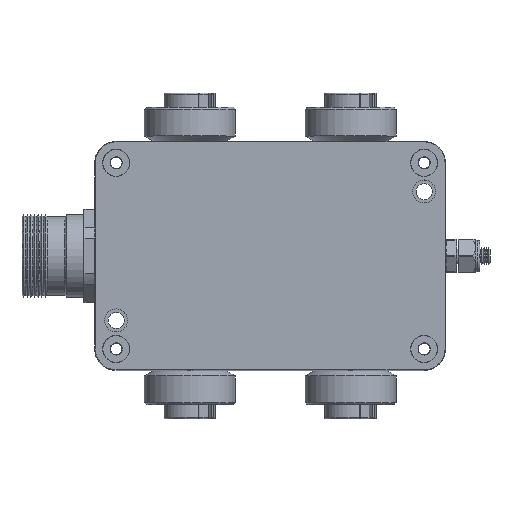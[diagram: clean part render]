
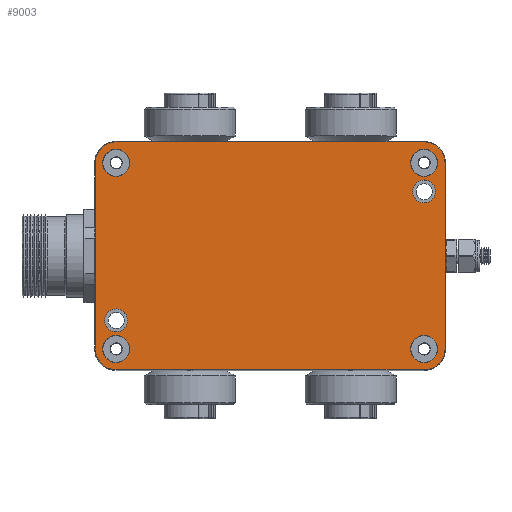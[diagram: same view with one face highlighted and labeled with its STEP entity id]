
A CAD part, top view. The second image highlights one B-rep face of the part: STEP entity #9003.
In plain terms, the highlighted planar face has unit normal (0, 0, 1).
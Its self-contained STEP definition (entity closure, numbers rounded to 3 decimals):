
#476=LINE('',#14518,#1065);
#498=LINE('',#14632,#1087);
#499=LINE('',#14635,#1088);
#500=LINE('',#14637,#1089);
#1065=VECTOR('',#11668,52.);
#1087=VECTOR('',#11794,52.);
#1088=VECTOR('',#11797,86.);
#1089=VECTOR('',#11798,86.);
#1716=FACE_BOUND('',#2771,.T.);
#1717=FACE_BOUND('',#2772,.T.);
#1718=FACE_BOUND('',#2773,.T.);
#1719=FACE_BOUND('',#2774,.T.);
#1720=FACE_BOUND('',#2775,.T.);
#1721=FACE_BOUND('',#2776,.T.);
#2091=FACE_OUTER_BOUND('',#2770,.T.);
#2770=EDGE_LOOP('',(#6882,#6883,#6884,#6885,#6886,#6887,#6888,#6889));
#2771=EDGE_LOOP('',(#6890));
#2772=EDGE_LOOP('',(#6891));
#2773=EDGE_LOOP('',(#6892));
#2774=EDGE_LOOP('',(#6893));
#2775=EDGE_LOOP('',(#6894));
#2776=EDGE_LOOP('',(#6895));
#3444=CIRCLE('',#9817,3.2);
#3445=CIRCLE('',#9819,3.2);
#3446=CIRCLE('',#9821,3.8);
#3447=CIRCLE('',#9823,3.8);
#3448=CIRCLE('',#9825,3.8);
#3449=CIRCLE('',#9827,3.8);
#3457=CIRCLE('',#9843,5.834);
#3465=CIRCLE('',#9865,5.834);
#3466=CIRCLE('',#9867,5.834);
#3467=CIRCLE('',#9868,5.834);
#4113=VERTEX_POINT('',#14515);
#4114=VERTEX_POINT('',#14517);
#4119=VERTEX_POINT('',#14529);
#4120=VERTEX_POINT('',#14532);
#4121=VERTEX_POINT('',#14535);
#4122=VERTEX_POINT('',#14538);
#4123=VERTEX_POINT('',#14541);
#4124=VERTEX_POINT('',#14544);
#4132=VERTEX_POINT('',#14568);
#4152=VERTEX_POINT('',#14626);
#4153=VERTEX_POINT('',#14630);
#4154=VERTEX_POINT('',#14631);
#4155=VERTEX_POINT('',#14633);
#4156=VERTEX_POINT('',#14636);
#5113=EDGE_CURVE('',#4113,#4114,#476,.T.);
#5119=EDGE_CURVE('',#4119,#4119,#3444,.T.);
#5120=EDGE_CURVE('',#4120,#4120,#3445,.T.);
#5121=EDGE_CURVE('',#4121,#4121,#3446,.T.);
#5122=EDGE_CURVE('',#4122,#4122,#3447,.T.);
#5123=EDGE_CURVE('',#4123,#4123,#3448,.T.);
#5124=EDGE_CURVE('',#4124,#4124,#3449,.T.);
#5132=EDGE_CURVE('',#4114,#4132,#3457,.T.);
#5161=EDGE_CURVE('',#4152,#4113,#3465,.T.);
#5163=EDGE_CURVE('',#4153,#4154,#498,.T.);
#5164=EDGE_CURVE('',#4155,#4153,#3466,.T.);
#5165=EDGE_CURVE('',#4132,#4155,#499,.T.);
#5166=EDGE_CURVE('',#4156,#4152,#500,.T.);
#5167=EDGE_CURVE('',#4154,#4156,#3467,.T.);
#6882=ORIENTED_EDGE('',*,*,#5163,.F.);
#6883=ORIENTED_EDGE('',*,*,#5164,.F.);
#6884=ORIENTED_EDGE('',*,*,#5165,.F.);
#6885=ORIENTED_EDGE('',*,*,#5132,.F.);
#6886=ORIENTED_EDGE('',*,*,#5113,.F.);
#6887=ORIENTED_EDGE('',*,*,#5161,.F.);
#6888=ORIENTED_EDGE('',*,*,#5166,.F.);
#6889=ORIENTED_EDGE('',*,*,#5167,.F.);
#6890=ORIENTED_EDGE('',*,*,#5124,.T.);
#6891=ORIENTED_EDGE('',*,*,#5123,.T.);
#6892=ORIENTED_EDGE('',*,*,#5122,.T.);
#6893=ORIENTED_EDGE('',*,*,#5121,.T.);
#6894=ORIENTED_EDGE('',*,*,#5120,.T.);
#6895=ORIENTED_EDGE('',*,*,#5119,.T.);
#8377=PLANE('',#9866);
#9003=ADVANCED_FACE('',(#2091,#1716,#1717,#1718,#1719,#1720,#1721),#8377,
 .F.);
#9817=AXIS2_PLACEMENT_3D('',#14530,#11677,#11678);
#9819=AXIS2_PLACEMENT_3D('',#14533,#11681,#11682);
#9821=AXIS2_PLACEMENT_3D('',#14536,#11685,#11686);
#9823=AXIS2_PLACEMENT_3D('',#14539,#11689,#11690);
#9825=AXIS2_PLACEMENT_3D('',#14542,#11693,#11694);
#9827=AXIS2_PLACEMENT_3D('',#14545,#11697,#11698);
#9843=AXIS2_PLACEMENT_3D('',#14569,#11729,#11730);
#9865=AXIS2_PLACEMENT_3D('',#14627,#11789,#11790);
#9866=AXIS2_PLACEMENT_3D('',#14629,#11792,#11793);
#9867=AXIS2_PLACEMENT_3D('',#14634,#11795,#11796);
#9868=AXIS2_PLACEMENT_3D('',#14638,#11799,#11800);
#11668=DIRECTION('',(0.,1.,0.));
#11677=DIRECTION('center_axis',(0.,0.,-1.));
#11678=DIRECTION('ref_axis',(-1.,0.,0.));
#11681=DIRECTION('center_axis',(0.,0.,-1.));
#11682=DIRECTION('ref_axis',(-1.,0.,0.));
#11685=DIRECTION('center_axis',(0.,0.,-1.));
#11686=DIRECTION('ref_axis',(-1.,0.,0.));
#11689=DIRECTION('center_axis',(0.,0.,-1.));
#11690=DIRECTION('ref_axis',(-1.,0.,0.));
#11693=DIRECTION('center_axis',(0.,0.,-1.));
#11694=DIRECTION('ref_axis',(-1.,0.,0.));
#11697=DIRECTION('center_axis',(0.,0.,-1.));
#11698=DIRECTION('ref_axis',(-1.,0.,0.));
#11729=DIRECTION('center_axis',(0.,0.,-1.));
#11730=DIRECTION('ref_axis',(-1.,0.,0.));
#11789=DIRECTION('center_axis',(0.,0.,-1.));
#11790=DIRECTION('ref_axis',(-1.,0.,0.));
#11792=DIRECTION('center_axis',(0.,0.,-1.));
#11793=DIRECTION('ref_axis',(-1.,0.,0.));
#11794=DIRECTION('',(0.,-1.,0.));
#11795=DIRECTION('center_axis',(0.,0.,-1.));
#11796=DIRECTION('ref_axis',(-1.,0.,0.));
#11797=DIRECTION('',(1.,0.,0.));
#11798=DIRECTION('',(-1.,0.,0.));
#11799=DIRECTION('center_axis',(0.,0.,-1.));
#11800=DIRECTION('ref_axis',(-1.,0.,0.));
#14515=CARTESIAN_POINT('',(-48.834,-26.,6.3));
#14517=CARTESIAN_POINT('',(-48.834,26.,6.3));
#14518=CARTESIAN_POINT('',(-48.834,-26.,6.3));
#14529=CARTESIAN_POINT('',(-46.2,-18.,6.3));
#14530=CARTESIAN_POINT('Origin',(-43.,-18.,6.3));
#14532=CARTESIAN_POINT('',(39.8,18.,6.3));
#14533=CARTESIAN_POINT('Origin',(43.,18.,6.3));
#14535=CARTESIAN_POINT('',(39.2,26.,6.3));
#14536=CARTESIAN_POINT('Origin',(43.,26.,6.3));
#14538=CARTESIAN_POINT('',(-46.8,-26.,6.3));
#14539=CARTESIAN_POINT('Origin',(-43.,-26.,6.3));
#14541=CARTESIAN_POINT('',(39.2,-26.,6.3));
#14542=CARTESIAN_POINT('Origin',(43.,-26.,6.3));
#14544=CARTESIAN_POINT('',(-46.8,26.,6.3));
#14545=CARTESIAN_POINT('Origin',(-43.,26.,6.3));
#14568=CARTESIAN_POINT('',(-43.,31.834,6.3));
#14569=CARTESIAN_POINT('Origin',(-43.,26.,6.3));
#14626=CARTESIAN_POINT('',(-43.,-31.834,6.3));
#14627=CARTESIAN_POINT('Origin',(-43.,-26.,6.3));
#14629=CARTESIAN_POINT('Origin',(0.,0.,6.3));
#14630=CARTESIAN_POINT('',(48.834,26.,6.3));
#14631=CARTESIAN_POINT('',(48.834,-26.,6.3));
#14632=CARTESIAN_POINT('',(48.834,26.,6.3));
#14633=CARTESIAN_POINT('',(43.,31.834,6.3));
#14634=CARTESIAN_POINT('Origin',(43.,26.,6.3));
#14635=CARTESIAN_POINT('',(-43.,31.834,6.3));
#14636=CARTESIAN_POINT('',(43.,-31.834,6.3));
#14637=CARTESIAN_POINT('',(43.,-31.834,6.3));
#14638=CARTESIAN_POINT('Origin',(43.,-26.,6.3));
